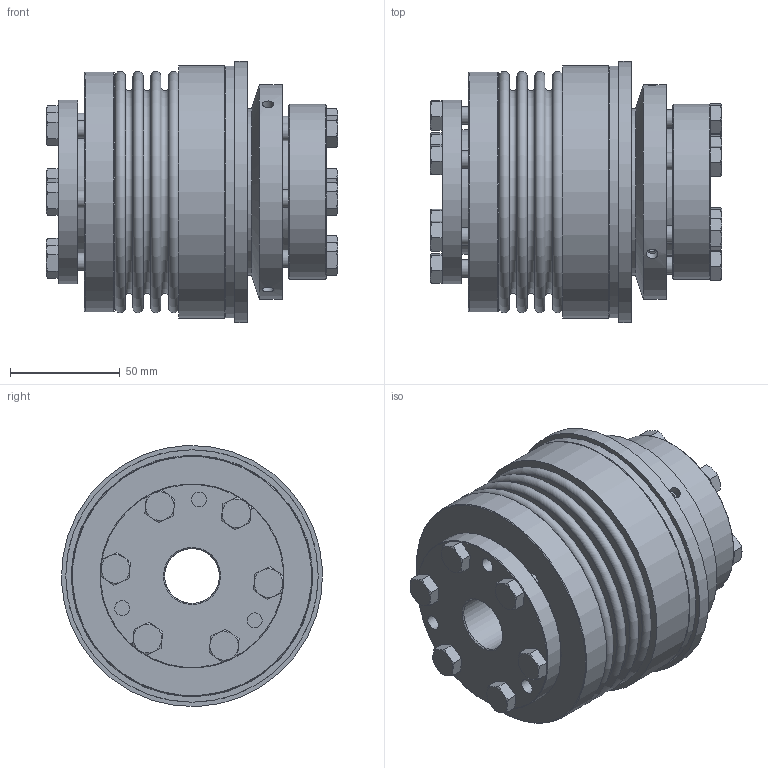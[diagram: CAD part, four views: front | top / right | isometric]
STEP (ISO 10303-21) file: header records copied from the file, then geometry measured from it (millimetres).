
FILE_DESCRIPTION( ( 'Unknown' ), '1' );
FILE_NAME( 'K:/Konstruktion/Korrigierte 3D Modelle/KBK-B-IA/KBK-BIA-300-132.stp', 'Unknown', ( 'Unknown' ), ( 'Unknown' ), 'PSStep 16.0.42', 'Unknown', ' ' );
FILE_SCHEMA( ( 'AUTOMOTIVE_DESIGN { 1 0 10303 214 1 1 1 1 }' ) );
Length unit declared in the file: millimetre
Products named in the file (18): KBK L-A-300 Grundkörper_0; Druckring 300_0; Druckring L-A-300_0; din_en_24017_m8x30_0; Stellring 300_0; BA5-300; Hex Screw GradeC_ISO_ISO 4018 - M8 x 30-NN_2; BA300_Standard_2; KB300_Standard_2; A-300; Assem1; BK300_Standard_0; Flansch BK300
Assembly tree (27 placements, depth 4):
  Assem1
    BK300_Standard_0
    Flansch BK300
    BA5-300
      Hex Screw GradeC_ISO_ISO 4018 - M8 x 30-NN_2  x6
      BA300_Standard_2
      KB300_Standard_2
    A-300
      Stellring 300_0
        Stellring 300_0
      Druckring 300_0
        Druckring 300_0
      KBK L-A-300 Grundkörper_0
        KBK L-A-300 Grundkörper_0
      Druckring L-A-300_0
        Druckring L-A-300_0
      din_en_24017_m8x30_0  x6
        din_en_24017_m8x30_0
Bounding box: 132.6 x 118.91 x 118.91 mm (x, y, z)
Volume: 684770.6 mm3; surface area: 235162.8 mm2
Topology: 20 solids, 20 shells, 402 faces, 843 edges, 534 vertices
Faces by surface type: plane 183, cone 121, cylinder 76, torus 22
Full cylindrical faces by diameter (mm): 3.242 x3, 5.2 x3, 6.647 x6, 6.8 x3, 8 x18, 8.5 x12, 11.63 x6, 25 x2, 52 x1, 55 x2, 57 x1, 57.995 x1, 76 x2, 80 x1, 83.5 x1, 84 x1, 88 x2, 90 x1, 98 x1, 98.5 x1, 99.8 x2, 101 x2, 109.5 x1, 115 x2, 119 x1
Entity records: 7442 total; most frequent: CARTESIAN_POINT 1262, DIRECTION 964, ORIENTED_EDGE 604, AXIS2_PLACEMENT_3D 458, EDGE_LOOP 410, EDGE_CURVE 302, FACE_OUTER_BOUND 285, VERTEX_POINT 262
